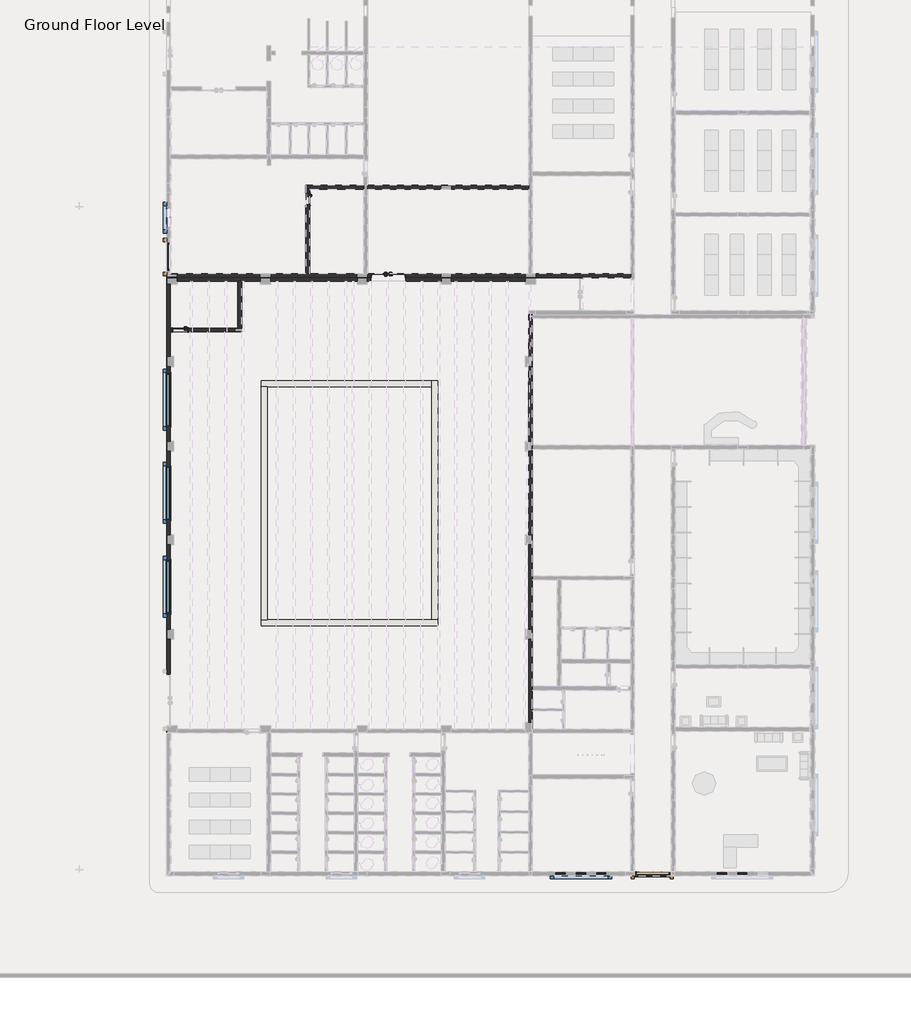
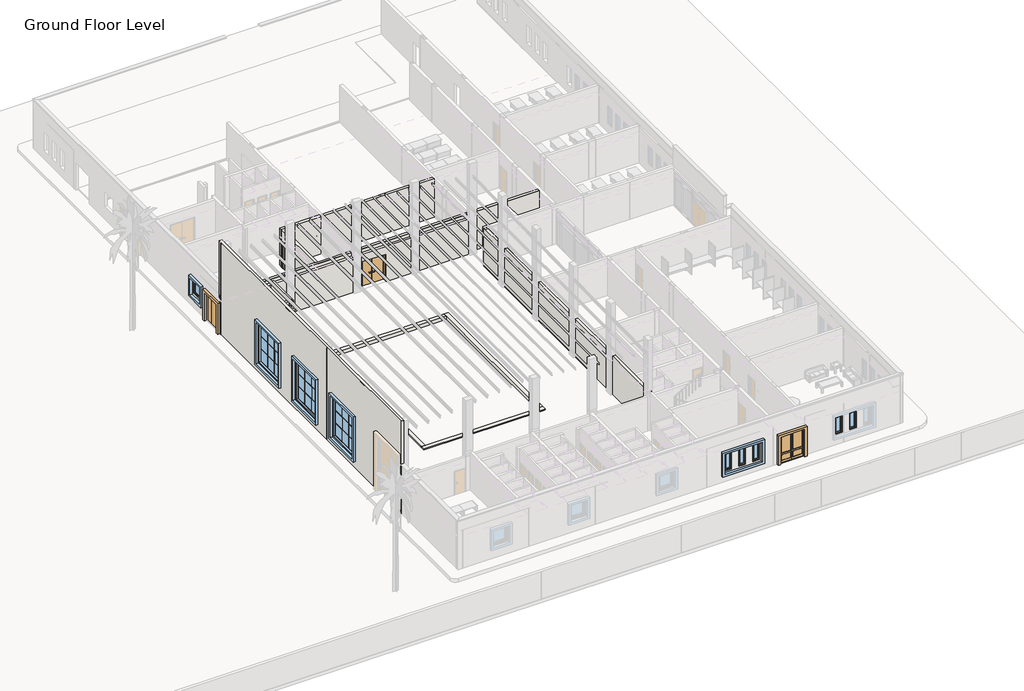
# One storey, part 3 of 23: 14 walls, 14 windows, 7 doors.
"""IFC4 building model written with IfcOpenShell, lengths in millimetres."""

from ifc_helpers import new_model, si_unit, frame, origin, place, context, project, spatial, polyline, outline, extrude, faceted_brep, transform, mapped, element, save
from components import door_1600_x_2500_8ab3e31f, door_batten_type_1_74683e9b, door_batten_type_1_96aa3be5, ext_double_out_timber_2lite_nz_2000x_2500_b5d1efe6, int_double_flush_nz_2000_x_2500_d3729d4c, int_single_flush_nz_700x_2100_3f4e598a, int_single_flush_nz_900_x_2100_2a598139, m_casement_3x3_with_trim_w4_ecc57509, window_batten_type_1_bbb21959, window_batten_type_1_b6324fda, window_batten_type_1_102509b6, window_single_shutter_w3_b236610e, window_single_shutter_w5_77842b58

model = new_model("IFC4")

# Units and contexts
model_context = context("Model", 3, world=origin())
ifc_project = project(units=[si_unit("LENGTHUNIT", "METRE", prefix="MILLI")], contexts=[model_context])

# Site, building, storey
site = spatial("IfcSite", under=ifc_project)
building = spatial("IfcBuilding", under=site)
storey = spatial("IfcBuildingStorey", under=building, Name="Ground Floor Level", Elevation=900.0)

# Doors
placement = place(None, origin())
door_1600_x_2500_shape = door_1600_x_2500_8ab3e31f(model_context)
element("IfcDoor", 1, ObjectType="Flush Asymmetrical : 1600 x 2500", at=placement, inside=storey, context=model_context, shape_type="MappedRepresentation", body=[
    mapped(door_1600_x_2500_shape, transform((-21947.2327605, -4944.7846466, 1000.0), x_axis=(0.0, 1.0, 0.0), y_axis=(-1.0, 0.0, 0.0), z_axis=(0.0, 0.0, 1.0))),
])
door_batten_type_1_shape = door_batten_type_1_74683e9b(model_context)
element("IfcDoor", 2, ObjectType="Door Batten : Type 1", at=placement, inside=storey, context=model_context, shape_type="MappedRepresentation", body=[
    mapped(door_batten_type_1_shape, transform((-21947.2327605, -4828.4134813, 987.2608957), x_axis=(0.0, -1.0, 0.0), y_axis=(1.0, 0.0, 0.0), z_axis=(0.0, 0.0, 1.0))),
])
door_batten_type_1_2_shape = door_batten_type_1_96aa3be5(model_context)
element("IfcDoor", 3, ObjectType="Door Batten : Type 1", at=placement, inside=storey, context=model_context, shape_type="MappedRepresentation", body=[
    mapped(door_batten_type_1_2_shape, transform((6395.8448912, -41254.7846466, 900.0), x_axis=(1.0, 0.0, 0.0), y_axis=(0.0, 1.0, 0.0), z_axis=(0.0, 0.0, 1.0))),
])
ext_double_out_timber_2lite_nz_2000x_2500_shape = ext_double_out_timber_2lite_nz_2000x_2500_b5d1efe6(model_context)
element("IfcDoor", 4, ObjectType="Ext Double Out-Timber-2Lite (NZ) : 2000x 2500", at=placement, inside=storey, context=model_context, shape_type="MappedRepresentation", body=[
    mapped(ext_double_out_timber_2lite_nz_2000x_2500_shape, transform((6410.7672394, -41257.5141639, 900.0), x_axis=(-1.0, 0.0, 0.0), y_axis=(0.0, -1.0, 0.0), z_axis=(0.0, 0.0, 1.0))),
])
int_double_flush_nz_2000_x_2500_shape = int_double_flush_nz_2000_x_2500_d3729d4c(model_context)
element("IfcDoor", 5, ObjectType="Int Double-Flush (NZ) : 2000 x 2500", at=placement, inside=storey, context=model_context, shape_type="MappedRepresentation", body=[
    mapped(int_double_flush_nz_2000_x_2500_shape, transform((-9018.2327605, -6054.7846466, 900.0), x_axis=(1.0, 0.0, 0.0), y_axis=(0.0, 1.0, 0.0), z_axis=(0.0, 0.0, 1.0))),
])
int_single_flush_nz_700x_2100_shape = int_single_flush_nz_700x_2100_3f4e598a(model_context)
element("IfcDoor", 6, ObjectType="Int Single-Flush (NZ) : 700x 2100", at=placement, inside=storey, context=model_context, shape_type="MappedRepresentation", body=[
    mapped(int_single_flush_nz_700x_2100_shape, transform((-13747.2327605, -1618.7846466, 1000.0), x_axis=(0.0, -1.0, 0.0), y_axis=(1.0, 0.0, 0.0), z_axis=(0.0, 0.0, 1.0))),
])
int_single_flush_nz_900_x_2100_shape = int_single_flush_nz_900_x_2100_2a598139(model_context)
element("IfcDoor", 7, ObjectType="Int Single-Flush (NZ) : 900 x 2100", at=placement, inside=storey, context=model_context, shape_type="MappedRepresentation", body=[
    mapped(int_single_flush_nz_900_x_2100_shape, transform((-21343.2327605, -9254.7846466, 1000.0), x_axis=(-1.0, 0.0, 0.0), y_axis=(0.0, -1.0, 0.0), z_axis=(0.0, 0.0, 1.0))),
])

# Walls
element("IfcWall", 8, ObjectType="Exterior - Blockwork 200 Swimming Pool", at=placement, inside=storey, context=model_context, shape_type="Brep", body=[
    faceted_brep([(-21837.2327605, -6164.7846466, 4100.0), (-947.2327605, -6164.7846466, 4100.0), (-947.2327605, -6164.7846466, 900.0), (-7999.2327605, -6164.7846466, 900.0), (-7999.2327605, -6164.7846466, 3419.0), (-10037.2327605, -6164.7846466, 3419.0), (-10037.2327605, -6164.7846466, 900.0), (-21837.2327605, -6164.7846466, 900.0), (-16547.2327605, -6384.7846466, 4100.0), (-21447.2327605, -6384.7846466, 4100.0), (-21447.2327605, -6384.7846466, 910.0), (-16547.2327605, -6384.7846466, 910.0), (-10847.2327605, -6384.7846466, 4100.0), (-15947.2327605, -6384.7846466, 4100.0), (-15947.2327605, -6384.7846466, 910.0), (-10847.2327605, -6384.7846466, 910.0), (-947.2327605, -6384.7846466, 4100.0), (-5297.2327605, -6384.7846466, 4100.0), (-5297.2327605, -6384.7846466, 910.0), (-947.2327605, -6384.7846466, 910.0), (-5897.2327605, -6384.7846466, 4100.0), (-10247.2327605, -6384.7846466, 4100.0), (-10247.2327605, -6384.7846466, 910.0), (-10037.2327605, -6384.7846466, 910.0), (-10037.2327605, -6384.7846466, 3419.0), (-7999.2327605, -6384.7846466, 3419.0), (-7999.2327605, -6384.7846466, 910.0), (-5897.2327605, -6384.7846466, 910.0), (-21837.2327605, -6174.7846466, 900.0), (-10037.2327605, -6374.7846466, 900.0), (-10247.2327605, -6374.7846466, 900.0), (-10247.2327605, -6174.7846466, 900.0), (-10847.2327605, -6174.7846466, 900.0), (-10847.2327605, -6374.7846466, 900.0), (-15947.2327605, -6374.7846466, 900.0), (-15947.2327605, -6174.7846466, 900.0), (-16547.2327605, -6174.7846466, 900.0), (-16547.2327605, -6374.7846466, 900.0), (-21447.2327605, -6374.7846466, 900.0), (-21447.2327605, -6174.7846466, 900.0), (-5297.2327605, -6174.7846466, 900.0), (-5897.2327605, -6174.7846466, 900.0), (-5897.2327605, -6374.7846466, 900.0), (-7999.2327605, -6374.7846466, 900.0), (-947.2327605, -6374.7846466, 900.0), (-5297.2327605, -6374.7846466, 900.0), (-21837.2327605, -6174.7846466, 4100.0), (-21447.2327605, -6174.7846466, 4100.0), (-16547.2327605, -6174.7846466, 4100.0), (-15947.2327605, -6174.7846466, 4100.0), (-10847.2327605, -6174.7846466, 4100.0), (-10247.2327605, -6174.7846466, 4100.0), (-5897.2327605, -6174.7846466, 4100.0), (-5297.2327605, -6174.7846466, 4100.0), (-947.2327605, -6374.7846466, 910.0), (-21447.2327605, -6374.7846466, 910.0), (-15947.2327605, -6374.7846466, 910.0), (-16547.2327605, -6374.7846466, 910.0), (-10247.2327605, -6374.7846466, 910.0), (-10847.2327605, -6374.7846466, 910.0), (-5297.2327605, -6374.7846466, 910.0), (-5897.2327605, -6374.7846466, 910.0), (-7999.2327605, -6374.7846466, 910.0), (-10037.2327605, -6374.7846466, 910.0)], [[[0, 1, 2, 3, 4, 5, 6, 7]], [[8, 9, 10, 11]], [[12, 13, 14, 15]], [[16, 17, 18, 19]], [[20, 21, 22, 23, 24, 25, 26, 27]], [[28, 7, 6, 29, 30, 31, 32, 33, 34, 35, 36, 37, 38, 39]], [[40, 41, 42, 43, 3, 2, 44, 45]], [[1, 0, 46, 47, 9, 8, 48, 49, 13, 12, 50, 51, 21, 20, 52, 53, 17, 16]], [[2, 1, 16, 19, 54, 44]], [[0, 7, 28, 46]], [[28, 39, 47, 46]], [[9, 47, 39, 38, 55, 10]], [[36, 35, 49, 48]], [[13, 49, 35, 34, 56, 14]], [[48, 8, 11, 57, 37, 36]], [[32, 31, 51, 50]], [[21, 51, 31, 30, 58, 22]], [[50, 12, 15, 59, 33, 32]], [[41, 40, 53, 52]], [[17, 53, 40, 45, 60, 18]], [[52, 20, 27, 61, 42, 41]], [[55, 57, 11, 10]], [[56, 59, 15, 14]], [[60, 54, 19, 18]], [[62, 61, 27, 26]], [[58, 63, 23, 22]], [[57, 55, 38, 37]], [[59, 56, 34, 33]], [[54, 60, 45, 44]], [[61, 62, 43, 42]], [[63, 58, 30, 29]], [[25, 4, 3, 43, 62, 26]], [[4, 25, 24, 5]], [[5, 24, 23, 63, 29, 6]]]),
])
element("IfcWall", 9, ObjectType="Exterior - Blockwork 200 Swimming Pool", at=placement, inside=storey, context=model_context, shape_type="Brep", body=[
    faceted_brep([(-757.2327605, -32354.7846466, 4400.0), (-757.2327605, -27454.7846466, 4400.0), (-757.2327605, -27454.7846466, 910.0), (-757.2327605, -32354.7846466, 910.0), (-757.2327605, -26854.7846466, 4400.0), (-757.2327605, -21904.7846466, 4400.0), (-757.2327605, -21904.7846466, 910.0), (-757.2327605, -26854.7846466, 910.0), (-757.2327605, -21304.7846466, 4400.0), (-757.2327605, -16404.7846466, 4400.0), (-757.2327605, -16404.7846466, 910.0), (-757.2327605, -21304.7846466, 910.0), (-757.2327605, -15804.7846466, 4400.0), (-757.2327605, -11404.7846466, 4400.0), (-757.2327605, -11404.7846466, 910.0), (-757.2327605, -15804.7846466, 910.0), (-757.2327605, -10804.7846466, 4400.0), (-757.2327605, -8344.7846466, 4400.0), (-757.2327605, -8344.7846466, 910.0), (-757.2327605, -10804.7846466, 910.0), (-537.2327605, -8344.7846466, 900.0), (-537.2327605, -8344.7846466, 4400.0), (-537.2327605, -8354.7846466, 4400.0), (-537.2327605, -8354.7846466, 900.0), (-537.2327605, -23754.7846466, 1000.0), (-537.2327605, -23744.7846466, 1000.0), (-537.2327605, -16264.7846466, 1000.0), (-537.2327605, -16254.7846466, 1000.0), (-537.2327605, -16254.7846466, 900.0), (-537.2327605, -16054.7846466, 900.0), (-537.2327605, -16054.7846466, 1000.0), (-537.2327605, -16044.7846466, 1000.0), (-537.2327605, -8564.7846466, 1000.0), (-537.2327605, -8554.7846466, 1000.0), (-537.2327605, -8554.7846466, 4400.0), (-537.2327605, -8564.7846466, 4400.0), (-537.2327605, -16044.7846466, 4400.0), (-537.2327605, -16264.7846466, 4400.0), (-537.2327605, -23744.7846466, 4400.0), (-537.2327605, -23964.7846466, 4400.0), (-537.2327605, -30234.7846466, 4400.0), (-537.2327605, -30454.7846466, 4400.0), (-537.2327605, -31544.7846466, 4400.0), (-537.2327605, -31664.7846466, 4400.0), (-537.2327605, -32754.7846466, 4400.0), (-537.2327605, -32854.7846466, 4400.0), (-537.2327605, -32854.7846466, 4100.0), (-537.2327605, -32744.7846466, 4100.0), (-537.2327605, -32744.7846466, 1000.0), (-537.2327605, -30444.7846466, 1000.0), (-537.2327605, -30444.7846466, 900.0), (-537.2327605, -30234.7846466, 900.0), (-537.2327605, -23964.7846466, 900.0), (-537.2327605, -23754.7846466, 900.0), (-547.2327605, -27454.7846466, 900.0), (-547.2327605, -26854.7846466, 900.0), (-747.2327605, -26854.7846466, 900.0), (-747.2327605, -21904.7846466, 900.0), (-547.2327605, -21904.7846466, 900.0), (-547.2327605, -23754.7846466, 900.0), (-547.2327605, -30444.7846466, 900.0), (-547.2327605, -32354.7846466, 900.0), (-747.2327605, -32354.7846466, 900.0), (-747.2327605, -27454.7846466, 900.0), (-747.2327605, -8354.7846466, 900.0), (-747.2327605, -8344.7846466, 900.0), (-547.2327605, -16404.7846466, 900.0), (-547.2327605, -21304.7846466, 900.0), (-747.2327605, -21304.7846466, 900.0), (-747.2327605, -16404.7846466, 900.0), (-547.2327605, -16254.7846466, 900.0), (-547.2327605, -16054.7846466, 900.0), (-747.2327605, -8554.7846466, 900.0), (-547.2327605, -8554.7846466, 900.0), (-547.2327605, -10804.7846466, 900.0), (-747.2327605, -10804.7846466, 900.0), (-547.2327605, -11404.7846466, 900.0), (-547.2327605, -15804.7846466, 900.0), (-747.2327605, -15804.7846466, 900.0), (-747.2327605, -11404.7846466, 900.0), (-547.2327605, -32354.7846466, 1000.0), (-547.2327605, -32744.7846466, 1000.0), (-547.2327605, -32744.7846466, 4100.0), (-547.2327605, -32854.7846466, 4100.0), (-547.2327605, -32854.7846466, 4400.0), (-547.2327605, -32754.7846466, 4400.0), (-547.2327605, -32354.7846466, 4400.0), (-747.2327605, -32354.7846466, 910.0), (-547.2327605, -27454.7846466, 4400.0), (-547.2327605, -26854.7846466, 4400.0), (-747.2327605, -27454.7846466, 910.0), (-747.2327605, -26854.7846466, 910.0), (-547.2327605, -21304.7846466, 1000.0), (-547.2327605, -21904.7846466, 1000.0), (-547.2327605, -21904.7846466, 4400.0), (-547.2327605, -21304.7846466, 4400.0), (-747.2327605, -21904.7846466, 910.0), (-747.2327605, -21304.7846466, 910.0), (-547.2327605, -16254.7846466, 1000.0), (-547.2327605, -16404.7846466, 1000.0), (-547.2327605, -16404.7846466, 4400.0), (-547.2327605, -15804.7846466, 4400.0), (-547.2327605, -15804.7846466, 1000.0), (-547.2327605, -16054.7846466, 1000.0), (-747.2327605, -16404.7846466, 910.0), (-747.2327605, -15804.7846466, 910.0), (-547.2327605, -10804.7846466, 1000.0), (-547.2327605, -11404.7846466, 1000.0), (-547.2327605, -11404.7846466, 4400.0), (-547.2327605, -10804.7846466, 4400.0), (-747.2327605, -11404.7846466, 910.0), (-747.2327605, -10804.7846466, 910.0), (-747.2327605, -8554.7846466, 910.0), (-747.2327605, -8554.7846466, 4400.0), (-547.2327605, -8554.7846466, 4400.0), (-547.2327605, -8554.7846466, 1000.0), (-747.2327605, -8354.7846466, 4400.0), (-747.2327605, -8354.7846466, 910.0), (-747.2327605, -8344.7846466, 910.0), (-547.2327605, -8344.7846466, 4400.0), (-547.2327605, -8354.7846466, 4400.0), (-547.2327605, -23754.7846466, 1000.0), (-547.2327605, -30444.7846466, 1000.0)], [[[0, 1, 2, 3]], [[4, 5, 6, 7]], [[8, 9, 10, 11]], [[12, 13, 14, 15]], [[16, 17, 18, 19]], [[20, 21, 22, 23]], [[24, 25, 26, 27, 28, 29, 30, 31, 32, 33, 34, 35, 36, 37, 38, 39, 40, 41, 42, 43, 44, 45, 46, 47, 48, 49, 50, 51, 52, 53]], [[54, 55, 56, 57, 58, 59, 53, 52, 51, 50, 60, 61, 62, 63]], [[20, 23, 64, 65]], [[66, 67, 68, 69]], [[28, 70, 71, 29]], [[72, 73, 74, 75]], [[76, 77, 78, 79]], [[80, 81, 82, 83, 84, 85, 86]], [[61, 80, 86, 0, 3, 87, 62]], [[55, 54, 88, 89]], [[88, 54, 63, 90, 2, 1]], [[55, 89, 4, 7, 91, 56]], [[92, 93, 94, 95]], [[93, 58, 57, 96, 6, 5, 94]], [[67, 92, 95, 8, 11, 97, 68]], [[98, 99, 100, 101, 102, 103, 71, 70]], [[99, 66, 69, 104, 10, 9, 100]], [[77, 102, 101, 12, 15, 105, 78]], [[106, 107, 108, 109]], [[107, 76, 79, 110, 14, 13, 108]], [[74, 106, 109, 16, 19, 111, 75]], [[73, 72, 112, 113, 114, 34, 33, 115]], [[116, 113, 112, 117]], [[21, 20, 65, 118, 18, 17, 119]], [[23, 22, 120, 116, 117, 64]], [[121, 93, 92, 99, 98, 27, 26, 25, 24]], [[59, 121, 24, 53]], [[121, 59, 58, 93]], [[99, 92, 67, 66]], [[27, 98, 70, 28]], [[102, 107, 106, 115, 33, 32, 31, 30, 103]], [[103, 30, 29, 71]], [[107, 102, 77, 76]], [[115, 106, 74, 73]], [[80, 122, 49, 48, 81]], [[60, 122, 80, 61]], [[122, 60, 50, 49]], [[90, 87, 3, 2]], [[96, 91, 7, 6]], [[104, 97, 11, 10]], [[110, 105, 15, 14]], [[112, 111, 19, 18, 118, 117]], [[87, 90, 63, 62]], [[91, 96, 57, 56]], [[97, 104, 69, 68]], [[105, 110, 79, 78]], [[111, 112, 72, 75]], [[117, 118, 65, 64]], [[46, 45, 84, 83]], [[47, 46, 83, 82]], [[47, 82, 81, 48]], [[119, 17, 16, 109, 114, 113, 116, 120]], [[0, 86, 88, 1]], [[4, 89, 94, 5]], [[8, 95, 100, 9]], [[12, 101, 108, 13]], [[45, 44, 43, 42, 41, 40, 39, 38, 37, 36, 35, 34, 114, 109, 108, 101, 100, 95, 94, 89, 88, 86, 85, 84]], [[21, 119, 120, 22]]]),
])
element("IfcWall", 10, ObjectType="Exterior - Blockwork 200mm", at=placement, inside=storey, context=model_context, shape_type="Brep", body=[
    faceted_brep([(-21837.2327605, -5944.7846466, 9300.0), (-21837.2327605, -6164.7846466, 9300.0), (-21837.2327605, -32744.7846466, 9300.0), (-21837.2327605, -32964.7846466, 9300.0), (-21837.2327605, -32964.7846466, 5302.8002678), (-21837.2327605, -32964.7846466, 4550.0), (-21837.2327605, -32964.7846466, 4400.0), (-21837.2327605, -32954.7846466, 4400.0), (-21837.2327605, -32954.7846466, 9200.0), (-21837.2327605, -32744.7846466, 9200.0), (-21837.2327605, -32554.7846466, 9200.0), (-21837.2327605, -32554.7846466, 5919.0), (-21837.2327605, -29535.7846466, 5919.0), (-21837.2327605, -29535.7846466, 910.0), (-21837.2327605, -27454.7846468, 910.0), (-21837.2327605, -27454.7846468, 9200.0), (-21837.2327605, -26854.7846468, 9200.0), (-21837.2327605, -26854.7846468, 910.0), (-21837.2327605, -21904.7846466, 910.0), (-21837.2327605, -21904.7846466, 9200.0), (-21837.2327605, -21304.7846466, 9200.0), (-21837.2327605, -21304.7846466, 910.0), (-21837.2327605, -16404.7846466, 910.0), (-21837.2327605, -16404.7846466, 9200.0), (-21837.2327605, -15804.7846466, 9200.0), (-21837.2327605, -15804.7846466, 910.0), (-21837.2327605, -11404.7846466, 910.0), (-21837.2327605, -11404.7846466, 9200.0), (-21837.2327605, -10804.7846466, 9200.0), (-21837.2327605, -10804.7846466, 910.0), (-21837.2327605, -6574.7846466, 910.0), (-21837.2327605, -6574.7846466, 4270.0), (-21837.2327605, -9354.7846466, 4270.0), (-21837.2327605, -9354.7846466, 4400.0), (-21837.2327605, -6574.7846466, 4400.0), (-21837.2327605, -6574.7846466, 9200.0), (-21837.2327605, -6174.7846466, 9200.0), (-21837.2327605, -6174.7846466, 4400.0), (-21837.2327605, -6174.7846466, 4270.0), (-21837.2327605, -6174.7846466, 4100.0), (-21837.2327605, -6174.7846466, 900.0), (-21837.2327605, -6164.7846466, 900.0), (-21837.2327605, -6154.7846466, 900.0), (-21837.2327605, -6154.7846466, 4100.0), (-21837.2327605, -6154.7846466, 4400.0), (-21837.2327605, -5954.7846466, 4400.0), (-21837.2327605, -5954.7846466, 4100.0), (-21837.2327605, -5944.7846466, 4100.0), (-21837.2327605, -5944.7846466, 4400.0), (-21837.2327605, -5944.7846466, 4550.0), (-21837.2327605, -5944.7846466, 5302.8002678), (-21837.2327605, -25932.2846466, 1800.0), (-21837.2327605, -25932.2846466, 5300.0), (-21837.2327605, -22832.2846466, 5300.0), (-21837.2327605, -22832.2846466, 1800.0), (-21837.2327605, -20412.2846466, 1815.0), (-21837.2327605, -20412.2846466, 5315.0), (-21837.2327605, -17312.2846466, 5315.0), (-21837.2327605, -17312.2846466, 1815.0), (-21837.2327605, -14912.2846466, 1815.0), (-21837.2327605, -14912.2846466, 5315.0), (-21837.2327605, -11812.2846466, 5315.0), (-21837.2327605, -11812.2846466, 1815.0), (-21837.2327605, -32954.7846466, 900.0), (-21837.2327605, -32954.7846466, 1000.0), (-21837.2327605, -32954.7846466, 4100.0), (-21837.2327605, -32964.7846466, 4100.0), (-21837.2327605, -32964.7846466, 1000.0), (-21837.2327605, -32964.7846466, 900.0), (-22057.2327605, -32964.7846466, 9300.0), (-22057.2327605, -5944.7846466, 9300.0), (-22057.2327605, -5944.7846466, 5302.8002678), (-22057.2327605, -5944.7846466, 4100.0), (-22057.2327605, -6054.7846466, 4100.0), (-22057.2327605, -6054.7846466, 900.0), (-22057.2327605, -29535.7846466, 900.0), (-22057.2327605, -29535.7846466, 5919.0), (-22057.2327605, -32573.7846466, 5919.0), (-22057.2327605, -32573.7846466, 900.0), (-22057.2327605, -32964.7846466, 900.0), (-22057.2327605, -32964.7846466, 4100.0), (-22057.2327605, -32854.7846466, 4100.0), (-22057.2327605, -32854.7846466, 4400.0), (-22057.2327605, -32964.7846466, 4400.0), (-22057.2327605, -32964.7846466, 5302.8002678), (-22057.2327605, -25932.2846466, 5300.0), (-22057.2327605, -25932.2846466, 1800.0), (-22057.2327605, -22832.2846466, 1800.0), (-22057.2327605, -22832.2846466, 5300.0), (-22057.2327605, -20412.2846466, 5315.0), (-22057.2327605, -20412.2846466, 1815.0), (-22057.2327605, -17312.2846466, 1815.0), (-22057.2327605, -17312.2846466, 5315.0), (-22057.2327605, -14912.2846466, 5315.0), (-22057.2327605, -14912.2846466, 1815.0), (-22057.2327605, -11812.2846466, 1815.0), (-22057.2327605, -11812.2846466, 5315.0), (-22047.2327605, -10804.7846466, 900.0), (-22047.2327605, -11404.7846466, 900.0), (-21847.2327605, -11404.7846466, 900.0), (-21847.2327605, -15804.7846466, 900.0), (-22047.2327605, -15804.7846466, 900.0), (-22047.2327605, -16404.7846466, 900.0), (-21847.2327605, -16404.7846466, 900.0), (-21847.2327605, -21304.7846466, 900.0), (-22047.2327605, -21304.7846466, 900.0), (-22047.2327605, -21904.7846466, 900.0), (-21847.2327605, -21904.7846466, 900.0), (-21847.2327605, -26854.7846468, 900.0), (-22047.2327605, -26854.7846468, 900.0), (-22047.2327605, -27454.7846468, 900.0), (-21847.2327605, -27454.7846468, 900.0), (-21847.2327605, -29535.7846466, 900.0), (-22047.2327605, -6054.7846466, 900.0), (-22047.2327605, -6154.7846466, 900.0), (-22047.2327605, -6174.7846466, 900.0), (-22047.2327605, -6574.7846466, 900.0), (-21847.2327605, -6574.7846466, 900.0), (-21847.2327605, -10804.7846466, 900.0), (-22047.2327605, -32573.7846466, 900.0), (-22047.2327605, -32954.7846466, 900.0), (-21847.2327605, -32964.7846466, 900.0), (-22047.2327605, -11404.7846466, 9200.0), (-21847.2327605, -11404.7846466, 910.0), (-22047.2327605, -10804.7846466, 9200.0), (-21847.2327605, -10804.7846466, 910.0), (-22047.2327605, -15804.7846466, 9200.0), (-22047.2327605, -16404.7846466, 9200.0), (-21847.2327605, -15804.7846466, 910.0), (-21847.2327605, -16404.7846466, 910.0), (-22047.2327605, -21304.7846466, 9200.0), (-22047.2327605, -21904.7846466, 9200.0), (-21847.2327605, -21304.7846466, 910.0), (-21847.2327605, -21904.7846466, 910.0), (-22047.2327605, -26854.7846468, 9200.0), (-22047.2327605, -27454.7846468, 9200.0), (-21847.2327605, -26854.7846468, 910.0), (-21847.2327605, -27454.7846468, 910.0), (-22047.2327605, -32554.7846466, 9200.0), (-22047.2327605, -32554.7846466, 5919.0), (-22047.2327605, -32954.7846466, 9200.0), (-22047.2327605, -32954.7846466, 4550.0), (-22047.2327605, -32954.7846466, 4400.0), (-22047.2327605, -32854.7846466, 4400.0), (-22047.2327605, -32854.7846466, 4100.0), (-22047.2327605, -32954.7846466, 4100.0), (-22047.2327605, -32573.7846466, 5919.0), (-22047.2327605, -6574.7846466, 9200.0), (-21847.2327605, -6574.7846466, 4400.0), (-21847.2327605, -6574.7846466, 4270.0), (-21847.2327605, -6574.7846466, 910.0), (-22047.2327605, -6174.7846466, 9200.0), (-22047.2327605, -32964.7846466, 4400.0), (-22047.2327605, -6154.7846466, 4400.0), (-22047.2327605, -5954.7846466, 4400.0), (-22047.2327605, -6054.7846466, 4100.0), (-22047.2327605, -5954.7846466, 4100.0), (-21847.2327605, -29535.7846466, 910.0), (-21847.2327605, -9354.7846466, 4270.0), (-21847.2327605, -9354.7846466, 4400.0)], [[[0, 1, 2, 3, 4, 5, 6, 7, 8, 9, 10, 11, 12, 13, 14, 15, 16, 17, 18, 19, 20, 21, 22, 23, 24, 25, 26, 27, 28, 29, 30, 31, 32, 33, 34, 35, 36, 37, 38, 39, 40, 41, 42, 43, 44, 45, 46, 47, 48, 49, 50], [51, 52, 53, 54], [55, 56, 57, 58], [59, 60, 61, 62]], [[63, 64, 65, 66, 67, 68]], [[69, 70, 71, 72, 73, 74, 75, 76, 77, 78, 79, 80, 81, 82, 83, 84], [85, 86, 87, 88], [89, 90, 91, 92], [93, 94, 95, 96]], [[97, 98, 99, 100, 101, 102, 103, 104, 105, 106, 107, 108, 109, 110, 111, 112, 75, 74, 113, 114, 42, 41, 40, 115, 116, 117, 118]], [[119, 120, 63, 68, 121, 79, 78]], [[3, 2, 1, 0, 70, 69]], [[51, 86, 85, 52]], [[86, 51, 54, 87]], [[87, 54, 53, 88]], [[55, 90, 89, 56]], [[90, 55, 58, 91]], [[91, 58, 57, 92]], [[59, 94, 93, 60]], [[94, 59, 62, 95]], [[95, 62, 61, 96]], [[122, 27, 26, 123, 99, 98]], [[124, 122, 98, 97]], [[28, 124, 97, 118, 125, 29]], [[122, 124, 28, 27]], [[126, 127, 102, 101]], [[24, 126, 101, 100, 128, 25]], [[127, 23, 22, 129, 103, 102]], [[127, 126, 24, 23]], [[130, 131, 106, 105]], [[20, 130, 105, 104, 132, 21]], [[131, 19, 18, 133, 107, 106]], [[131, 130, 20, 19]], [[134, 135, 110, 109]], [[16, 134, 109, 108, 136, 17]], [[135, 15, 14, 137, 111, 110]], [[135, 134, 16, 15]], [[10, 138, 139, 11]], [[138, 140, 141, 142, 143, 144, 145, 120, 119, 146, 139]], [[140, 138, 10, 9, 8]], [[147, 35, 34, 148, 149, 31, 30, 150, 117, 116]], [[151, 147, 116, 115]], [[147, 151, 36, 35]], [[52, 85, 88, 53]], [[56, 89, 92, 57]], [[60, 93, 96, 61]], [[36, 151, 115, 40, 39, 38, 37]], [[65, 64, 63, 120, 145]], [[140, 8, 7, 142, 141]], [[81, 80, 66, 65, 145, 144]], [[82, 81, 144, 143]], [[83, 82, 143, 142, 7, 6, 152]], [[79, 121, 68, 67, 66, 80]], [[114, 153, 44, 43, 42]], [[154, 153, 114, 113, 155, 156]], [[153, 154, 45, 44]], [[74, 73, 155, 113]], [[73, 72, 47, 46, 156, 155]], [[45, 154, 156, 46]], [[3, 69, 84, 83, 152, 6, 5, 4]], [[70, 0, 50, 71]], [[128, 123, 26, 25]], [[132, 129, 22, 21]], [[136, 133, 18, 17]], [[157, 137, 14, 13]], [[125, 150, 30, 29]], [[123, 128, 100, 99]], [[129, 132, 104, 103]], [[133, 136, 108, 107]], [[137, 157, 112, 111]], [[150, 125, 118, 117]], [[78, 77, 146, 119]], [[76, 12, 11, 139, 146, 77]], [[12, 76, 75, 112, 157, 13]], [[149, 158, 32, 31]], [[33, 159, 148, 34]], [[158, 159, 33, 32]], [[159, 158, 149, 148]], [[47, 72, 71, 50, 49, 48]]]),
])
element("IfcWall", 11, ObjectType="Generic - 200mm Interior", at=placement, inside=storey, context=model_context, shape_type="Brep", body=[
    faceted_brep([(-13867.2327605, -734.7846466, 4400.0), (-10457.2327605, -734.7846466, 4400.0), (-10457.2327605, -734.7846466, 1000.0), (-13867.2327605, -734.7846466, 1000.0), (-10457.2327605, -974.7846466, 4400.0), (-13627.2327605, -974.7846466, 4400.0), (-13867.2327605, -974.7846466, 4400.0), (-13867.2327605, -974.7846466, 1000.0), (-13847.2327605, -974.7846466, 1000.0), (-13847.2327605, -974.7846466, 900.0), (-13647.2327605, -974.7846466, 900.0), (-13647.2327605, -974.7846466, 1000.0), (-13627.2327605, -974.7846466, 1000.0), (-10457.2327605, -974.7846466, 1000.0), (-13847.2327605, -754.7846466, 900.0), (-10457.2327605, -754.7846466, 900.0), (-10457.2327605, -954.7846466, 900.0), (-13647.2327605, -954.7846466, 900.0), (-10457.2327605, -954.7846466, 1000.0), (-10457.2327605, -754.7846466, 1000.0), (-13847.2327605, -754.7846466, 1000.0), (-13647.2327605, -954.7846466, 1000.0)], [[[0, 1, 2, 3]], [[4, 5, 6, 7, 8, 9, 10, 11, 12, 13]], [[14, 15, 16, 17, 10, 9]], [[1, 4, 13, 18, 16, 15, 19, 2]], [[6, 0, 3, 7]], [[1, 0, 6, 5, 4]], [[19, 20, 8, 7, 3, 2]], [[14, 20, 19, 15]], [[20, 14, 9, 8]], [[21, 18, 13, 12, 11]], [[21, 17, 16, 18]], [[17, 21, 11, 10]]]),
])
element("IfcWall", 12, ObjectType="Generic - 200mm Interior", at=placement, inside=storey, context=model_context, shape_type="Brep", body=[
    faceted_brep([(-13867.2327605, -5944.7846466, 4400.0), (-13867.2327605, -974.7846466, 4400.0), (-13867.2327605, -974.7846466, 1000.0), (-13867.2327605, -1174.7846466, 1000.0), (-13867.2327605, -1174.7846466, 3119.0), (-13867.2327605, -1912.7846466, 3119.0), (-13867.2327605, -1912.7846466, 1000.0), (-13867.2327605, -5944.7846466, 1000.0), (-13627.2327605, -974.7846466, 4400.0), (-13627.2327605, -5944.7846466, 4400.0), (-13627.2327605, -5944.7846466, 1000.0), (-13627.2327605, -1912.7846466, 1000.0), (-13627.2327605, -1912.7846466, 3119.0), (-13627.2327605, -1174.7846466, 3119.0), (-13627.2327605, -1174.7846466, 1000.0), (-13627.2327605, -974.7846466, 1000.0), (-13847.2327605, -5944.7846466, 900.0), (-13847.2327605, -974.7846466, 900.0), (-13647.2327605, -974.7846466, 900.0), (-13647.2327605, -5944.7846466, 900.0), (-13647.2327605, -974.7846466, 1000.0), (-13847.2327605, -974.7846466, 1000.0), (-13847.2327605, -1174.7846466, 1000.0), (-13847.2327605, -1912.7846466, 1000.0), (-13847.2327605, -5944.7846466, 1000.0), (-13647.2327605, -5944.7846466, 1000.0), (-13647.2327605, -1912.7846466, 1000.0), (-13647.2327605, -1174.7846466, 1000.0)], [[[0, 1, 2, 3, 4, 5, 6, 7]], [[8, 9, 10, 11, 12, 13, 14, 15]], [[16, 17, 18, 19]], [[1, 8, 15, 20, 18, 17, 21, 2]], [[1, 0, 9, 8]], [[2, 21, 22, 3]], [[23, 24, 7, 6]], [[24, 23, 22, 21, 17, 16]], [[25, 26, 11, 10]], [[27, 20, 15, 14]], [[20, 27, 26, 25, 19, 18]], [[5, 12, 11, 26, 23, 6]], [[12, 5, 4, 13]], [[13, 4, 3, 22, 27, 14]], [[22, 23, 26, 27]], [[9, 0, 7, 24, 16, 19, 25, 10]]]),
])
element("IfcWall", 13, ObjectType="Interior - Blockwork 200", at=placement, inside=storey, context=model_context, shape_type="Brep", body=[
    faceted_brep([(-10237.2327605, -744.7846466, 4400.0), (-757.2327605, -744.7846466, 4400.0), (-757.2327605, -744.7846466, 1000.0), (-10237.2327605, -744.7846466, 1000.0), (-757.2327605, -964.7846466, 4400.0), (-10237.2327605, -964.7846466, 4400.0), (-10237.2327605, -964.7846466, 910.0), (-757.2327605, -964.7846466, 910.0), (-5897.2327605, -754.7846466, 900.0), (-5897.2327605, -954.7846466, 900.0), (-10237.2327605, -954.7846466, 900.0), (-10237.2327605, -754.7846466, 900.0), (-5297.2327605, -954.7846466, 900.0), (-5297.2327605, -754.7846466, 900.0), (-757.2327605, -754.7846466, 900.0), (-757.2327605, -954.7846466, 900.0), (-10237.2327605, -754.7846466, 1000.0), (-10237.2327605, -954.7846466, 910.0), (-757.2327605, -954.7846466, 910.0), (-757.2327605, -754.7846466, 1000.0), (-5897.2327605, -954.7846466, 4400.0), (-5297.2327605, -954.7846466, 4400.0), (-5297.2327605, -954.7846466, 910.0), (-5897.2327605, -954.7846466, 910.0), (-5897.2327605, -754.7846466, 1000.0), (-5897.2327605, -754.7846466, 4400.0), (-5297.2327605, -754.7846466, 4400.0), (-5297.2327605, -754.7846466, 1000.0)], [[[0, 1, 2, 3]], [[4, 5, 6, 7]], [[8, 9, 10, 11]], [[12, 13, 14, 15]], [[5, 0, 3, 16, 11, 10, 17, 6]], [[1, 4, 7, 18, 15, 14, 19, 2]], [[20, 21, 22, 23]], [[9, 8, 24, 25, 20, 23]], [[26, 25, 24, 27]], [[13, 12, 22, 21, 26, 27]], [[1, 0, 5, 4], [21, 20, 25, 26]], [[24, 16, 3, 2, 19, 27]], [[16, 24, 8, 11]], [[27, 19, 14, 13]], [[17, 23, 22, 18, 7, 6]], [[23, 17, 10, 9]], [[18, 22, 12, 15]]]),
])
element("IfcWall", 14, ObjectType="Interior - Blockwork 200", at=placement, inside=storey, context=model_context, shape_type="Brep", body=[
    faceted_brep([(5242.7672395, -6164.7846466, 4400.0), (-21837.2327605, -6164.7846466, 4400.0), (-21837.2327605, -6164.7846466, 4100.0), (-21837.2327605, -6164.7846466, 900.0), (-10037.2327605, -6164.7846466, 900.0), (-10037.2327605, -6164.7846466, 3419.0), (-7999.2327605, -6164.7846466, 3419.0), (-7999.2327605, -6164.7846466, 900.0), (-947.2327605, -6164.7846466, 900.0), (-347.2327605, -6164.7846466, 900.0), (-347.2327605, -6164.7846466, 910.0), (5242.7672395, -6164.7846466, 910.0), (-21837.2327605, -5944.7846466, 4400.0), (-13867.2327605, -5944.7846466, 4400.0), (-13627.2327605, -5944.7846466, 4400.0), (-10457.2327605, -5944.7846466, 4400.0), (-10237.2327605, -5944.7846466, 4400.0), (-757.2327605, -5944.7846466, 4400.0), (-537.2327605, -5944.7846466, 4400.0), (5242.7672395, -5944.7846466, 4400.0), (5242.7672395, -5944.7846466, 1000.0), (-537.2327605, -5944.7846466, 1000.0), (-547.2327605, -5944.7846466, 1000.0), (-547.2327605, -5944.7846466, 900.0), (-747.2327605, -5944.7846466, 900.0), (-747.2327605, -5944.7846466, 910.0), (-757.2327605, -5944.7846466, 910.0), (-7999.2327605, -5944.7846466, 910.0), (-7999.2327605, -5944.7846466, 3419.0), (-10037.2327605, -5944.7846466, 3419.0), (-10037.2327605, -5944.7846466, 910.0), (-10237.2327605, -5944.7846466, 910.0), (-10247.2327605, -5944.7846466, 910.0), (-10247.2327605, -5944.7846466, 900.0), (-10447.2327605, -5944.7846466, 900.0), (-10447.2327605, -5944.7846466, 1000.0), (-10457.2327605, -5944.7846466, 1000.0), (-13647.2327605, -5944.7846466, 1000.0), (-13647.2327605, -5944.7846466, 900.0), (-13847.2327605, -5944.7846466, 900.0), (-13847.2327605, -5944.7846466, 1000.0), (-21837.2327605, -5944.7846466, 1000.0), (-21837.2327605, -5944.7846466, 4100.0), (-927.2327605, -5954.7846466, 900.0), (-927.2327605, -6154.7846466, 900.0), (-347.2327605, -6154.7846466, 900.0), (-7999.2327605, -5954.7846466, 900.0), (-5897.2327605, -5954.7846466, 900.0), (-5897.2327605, -6154.7846466, 900.0), (-5297.2327605, -6154.7846466, 900.0), (-5297.2327605, -5954.7846466, 900.0), (-327.2327605, -6154.7846466, 900.0), (-327.2327605, -5954.7846466, 900.0), (5242.7672395, -5954.7846466, 900.0), (5242.7672395, -6154.7846466, 900.0), (-10847.2327605, -5954.7846466, 900.0), (-10847.2327605, -6154.7846466, 900.0), (-10247.2327605, -6154.7846466, 900.0), (-10247.2327605, -5954.7846466, 900.0), (-10037.2327605, -5954.7846466, 900.0), (-21837.2327605, -6154.7846466, 900.0), (-21447.2327605, -6154.7846466, 900.0), (-21447.2327605, -5954.7846466, 900.0), (-16547.2327605, -5954.7846466, 900.0), (-16547.2327605, -6154.7846466, 900.0), (-15947.2327605, -6154.7846466, 900.0), (-15947.2327605, -5954.7846466, 900.0), (-13847.2327605, -5954.7846466, 900.0), (-13647.2327605, -5954.7846466, 900.0), (-547.2327605, -5954.7846466, 900.0), (-747.2327605, -5954.7846466, 900.0), (-10447.2327605, -5954.7846466, 900.0), (5242.7672395, -6154.7846466, 4400.0), (5242.7672395, -6154.7846466, 910.0), (5242.7672395, -5954.7846466, 1000.0), (-927.2327605, -5954.7846466, 910.0), (-927.2327605, -5954.7846466, 4400.0), (-927.2327605, -6154.7846466, 4400.0), (-327.2327605, -5954.7846466, 4400.0), (-747.2327605, -5954.7846466, 910.0), (-547.2327605, -5954.7846466, 1000.0), (-327.2327605, -5954.7846466, 1000.0), (-327.2327605, -6154.7846466, 910.0), (-327.2327605, -6154.7846466, 4400.0), (-5897.2327605, -5954.7846466, 910.0), (-5897.2327605, -5954.7846466, 4400.0), (-5897.2327605, -6154.7846466, 4400.0), (-5297.2327605, -5954.7846466, 4400.0), (-5297.2327605, -5954.7846466, 910.0), (-5297.2327605, -6154.7846466, 4400.0), (-10847.2327605, -5954.7846466, 1000.0), (-10847.2327605, -5954.7846466, 4400.0), (-10847.2327605, -6154.7846466, 4400.0), (-10247.2327605, -5954.7846466, 4400.0), (-10447.2327605, -5954.7846466, 1000.0), (-10247.2327605, -5954.7846466, 910.0), (-10247.2327605, -6154.7846466, 4400.0), (-16547.2327605, -5954.7846466, 1000.0), (-16547.2327605, -5954.7846466, 4400.0), (-16547.2327605, -6154.7846466, 4400.0), (-15947.2327605, -5954.7846466, 4400.0), (-15947.2327605, -5954.7846466, 1000.0), (-15947.2327605, -6154.7846466, 4400.0), (-21447.2327605, -5954.7846466, 4400.0), (-21837.2327605, -5954.7846466, 4400.0), (-21837.2327605, -5954.7846466, 4100.0), (-21837.2327605, -5954.7846466, 1000.0), (-21447.2327605, -5954.7846466, 1000.0), (-21447.2327605, -6154.7846466, 4400.0), (-547.2327605, -6154.7846466, 4400.0), (-21837.2327605, -6154.7846466, 4400.0), (-347.2327605, -6154.7846466, 910.0), (-13847.2327605, -5954.7846466, 1000.0), (-13647.2327605, -5954.7846466, 1000.0), (-7999.2327605, -5954.7846466, 910.0), (-10247.2327605, -5954.7846466, 910.0), (-10037.2327605, -5954.7846466, 910.0)], [[[0, 1, 2, 3, 4, 5, 6, 7, 8, 9, 10, 11]], [[12, 13, 14, 15, 16, 17, 18, 19, 20, 21, 22, 23, 24, 25, 26, 27, 28, 29, 30, 31, 32, 33, 34, 35, 36, 37, 38, 39, 40, 41, 42]], [[43, 44, 45, 9, 8, 7, 46, 47, 48, 49, 50]], [[51, 52, 53, 54]], [[55, 56, 57, 58, 59, 4, 3, 60, 61, 62, 63, 64, 65, 66, 67, 39, 38, 68]], [[23, 69, 70, 24]], [[58, 71, 34, 33]], [[72, 0, 11, 73, 54, 53, 74, 20, 19]], [[44, 43, 75, 76, 77]], [[78, 76, 75, 79, 70, 69, 80, 81]], [[52, 51, 82, 83, 78, 81]], [[48, 47, 84, 85, 86]], [[87, 85, 84, 88]], [[50, 49, 89, 87, 88]], [[56, 55, 90, 91, 92]], [[93, 91, 90, 94, 71, 58, 95]], [[58, 57, 96, 93, 95]], [[64, 63, 97, 98, 99]], [[100, 98, 97, 101]], [[66, 65, 102, 100, 101]], [[103, 104, 105, 106, 107]], [[62, 61, 108, 103, 107]], [[1, 0, 72, 83, 109, 77, 89, 86, 96, 92, 102, 99, 108, 110]], [[72, 19, 18, 17, 16, 15, 14, 13, 12, 104, 103, 108, 99, 98, 100, 102, 92, 91, 93, 96, 86, 85, 87, 89, 77, 76, 78, 83]], [[44, 77, 109, 83, 82, 111, 45]], [[48, 86, 89, 49]], [[56, 92, 96, 57]], [[64, 99, 102, 65]], [[108, 61, 60, 110]], [[74, 81, 80, 22, 21, 20]], [[81, 74, 53, 52]], [[22, 80, 69, 23]], [[112, 101, 97, 107, 106, 41, 40]], [[67, 112, 40, 39]], [[112, 67, 66, 101]], [[107, 97, 63, 62]], [[90, 113, 37, 36, 35, 94]], [[94, 35, 34, 71]], [[68, 113, 90, 55]], [[113, 68, 38, 37]], [[75, 88, 84, 114, 27, 26, 25, 79]], [[115, 32, 31, 30, 116]], [[79, 25, 24, 70]], [[88, 75, 43, 50]], [[58, 115, 116, 59]], [[47, 46, 114, 84]], [[115, 58, 33, 32]], [[10, 111, 82, 73, 11]], [[111, 10, 9, 45]], [[73, 82, 51, 54]], [[6, 28, 27, 114, 46, 7]], [[28, 6, 5, 29]], [[29, 5, 4, 59, 116, 30]], [[1, 110, 60, 3, 2]], [[104, 12, 42, 41, 106, 105]]]),
])
element("IfcWall", 15, ObjectType="Interior - Blockwork 200", at=placement, inside=storey, context=model_context, shape_type="Brep", body=[
    faceted_brep([(-17867.2327605, -6384.7846466, 4400.0), (-17867.2327605, -6384.7846466, 900.0), (-17867.2327605, -9144.7846466, 900.0), (-17867.2327605, -9154.7846466, 900.0), (-17867.2327605, -9154.7846466, 4400.0), (-17867.2327605, -9144.7846466, 4400.0), (-17647.2327605, -6384.7846466, 900.0), (-17647.2327605, -6384.7846466, 4400.0), (-17647.2327605, -9154.7846466, 4400.0), (-17647.2327605, -9154.7846466, 900.0), (-17657.2327605, -9154.7846466, 4400.0)], [[[0, 1, 2, 3, 4, 5]], [[6, 7, 8, 9]], [[1, 6, 9, 3, 2]], [[7, 0, 5, 4, 10, 8]], [[1, 0, 7, 6]], [[4, 3, 9, 8, 10]]]),
    faceted_brep([(-17867.2327605, -9364.7846466, 900.0), (-17867.2327605, -9364.7846466, 4400.0), (-17867.2327605, -9354.7846466, 4400.0), (-17867.2327605, -9354.7846466, 900.0), (-17647.2327605, -9364.7846466, 4400.0), (-17647.2327605, -9364.7846466, 900.0), (-17647.2327605, -9354.7846466, 900.0), (-17647.2327605, -9354.7846466, 4400.0), (-17657.2327605, -9354.7846466, 4400.0)], [[[0, 1, 2, 3]], [[4, 5, 6, 7]], [[5, 0, 3, 6]], [[1, 4, 7, 8, 2]], [[1, 0, 5, 4]], [[3, 2, 8, 7, 6]]]),
])
element("IfcWall", 16, ObjectType="Interior - Blockwork 200", at=placement, inside=storey, context=model_context, shape_type="Brep", body=[
    faceted_brep([(-21837.2327605, -9364.7846466, 900.0), (-17867.2327605, -9364.7846466, 900.0), (-17867.2327605, -9364.7846466, 4400.0), (-21837.2327605, -9364.7846466, 4400.0), (-21737.2327605, -9364.7846466, 1000.0), (-21737.2327605, -9364.7846466, 3119.0), (-20799.2327605, -9364.7846466, 3119.0), (-20799.2327605, -9364.7846466, 1000.0), (-17867.2327605, -9144.7846466, 900.0), (-21837.2327605, -9144.7846466, 900.0), (-21837.2327605, -9144.7846466, 4400.0), (-17867.2327605, -9144.7846466, 4400.0), (-21737.2327605, -9144.7846466, 3119.0), (-21737.2327605, -9144.7846466, 1000.0), (-20799.2327605, -9144.7846466, 1000.0), (-20799.2327605, -9144.7846466, 3119.0), (-17867.2327605, -9154.7846466, 900.0), (-18047.2327605, -9154.7846466, 900.0), (-18047.2327605, -9354.7846466, 900.0), (-17867.2327605, -9354.7846466, 900.0), (-17867.2327605, -9354.7846466, 4400.0), (-18047.2327605, -9354.7846466, 4400.0), (-18047.2327605, -9154.7846466, 4400.0), (-17867.2327605, -9154.7846466, 4400.0), (-18047.2327605, -9154.7846466, 4270.0), (-18047.2327605, -9354.7846466, 4270.0)], [[[0, 1, 2, 3], [4, 5, 6, 7]], [[8, 9, 10, 11], [12, 13, 14, 15]], [[1, 0, 9, 8, 16, 17, 18, 19]], [[3, 2, 20, 21, 22, 23, 11, 10]], [[8, 11, 23, 16]], [[2, 1, 19, 20]], [[0, 3, 10, 9]], [[22, 24, 17, 16, 23]], [[18, 25, 21, 20, 19]], [[21, 25, 18, 17, 24, 22]], [[4, 13, 12, 5]], [[5, 12, 15, 6]], [[14, 7, 6, 15]], [[13, 4, 7, 14]]]),
])
element("IfcWall", 17, ObjectType="Swimming Pool Walls - 300mm", at=placement, inside=storey, context=model_context, shape_type="Brep", body=[
    faceted_brep([(-16497.2327605, -12604.7846466, -3100.0), (-16147.2327605, -12604.7846466, -3100.0), (-6447.2327605, -12604.7846466, -3100.0), (-6447.2327605, -12604.7846466, 1000.0), (-16147.2327605, -12604.7846466, 1000.0), (-16497.2327605, -12604.7846466, 1000.0), (-16497.2327605, -12254.7846466, -3100.0), (-16497.2327605, -12254.7846466, 1000.0), (-6447.2327605, -12254.7846466, 1000.0), (-6447.2327605, -12254.7846466, -3100.0)], [[[0, 1, 2, 3, 4, 5]], [[6, 7, 8, 9]], [[2, 1, 0, 6, 9]], [[5, 4, 3, 8, 7]], [[0, 5, 7, 6]], [[3, 2, 9, 8]]]),
])
element("IfcWall", 18, ObjectType="Swimming Pool Walls - 300mm", at=placement, inside=storey, context=model_context, shape_type="SweptSolid", body=[
    extrude(outline(polyline([(-26304.7846466, -1100.0), (-26304.7846466, 1000.0), (-12604.7846466, 1000.0), (-12604.7846466, -3100.0), (-24954.7846466, -3100.0), (-24954.7846466, -1100.0), (-26304.7846466, -1100.0)])), frame((-16497.2327605, 0.0, 0.0), z_axis=(1.0, 0.0, 0.0), x_axis=(0.0, 1.0, 0.0)), (0.0, 0.0, 1.0), 350.0),
])
element("IfcWall", 19, ObjectType="Swimming Pool Walls - 300mm", at=placement, inside=storey, context=model_context, shape_type="Brep", body=[
    faceted_brep([(-6097.2327605, -26304.7846466, -1100.0), (-6447.2327605, -26304.7846466, -1100.0), (-16147.2327605, -26304.7846466, -1100.0), (-16497.2327605, -26304.7846466, -1100.0), (-16497.2327605, -26304.7846466, 1000.0), (-16147.2327605, -26304.7846466, 1000.0), (-6447.2327605, -26304.7846466, 1000.0), (-6097.2327605, -26304.7846466, 1000.0), (-6097.2327605, -26654.7846466, -1100.0), (-6097.2327605, -26654.7846466, 1000.0), (-16497.2327605, -26654.7846466, 1000.0), (-16497.2327605, -26654.7846466, -1100.0)], [[[0, 1, 2, 3, 4, 5, 6, 7]], [[8, 9, 10, 11]], [[3, 2, 1, 0, 8, 11]], [[7, 6, 5, 4, 10, 9]], [[4, 3, 11, 10]], [[0, 7, 9, 8]]]),
])
element("IfcWall", 20, ObjectType="Swimming Pool Walls - 300mm", at=placement, inside=storey, context=model_context, shape_type="Brep", body=[
    faceted_brep([(-6447.2327605, -12254.7846466, -3100.0), (-6447.2327605, -12604.7846466, -3100.0), (-6447.2327605, -24954.7846466, -3100.0), (-6447.2327605, -24954.7846466, -1100.0), (-6447.2327605, -26304.7846466, -1100.0), (-6447.2327605, -26304.7846466, 1000.0), (-6447.2327605, -12604.7846466, 1000.0), (-6447.2327605, -12254.7846466, 1000.0), (-6097.2327605, -12254.7846466, -3100.0), (-6097.2327605, -12254.7846466, 1000.0), (-6097.2327605, -26304.7846466, 1000.0), (-6097.2327605, -26304.7846466, -1100.0), (-6097.2327605, -24954.7846466, -1100.0), (-6097.2327605, -24954.7846466, -3100.0)], [[[0, 1, 2, 3, 4, 5, 6, 7]], [[8, 9, 10, 11, 12, 13]], [[7, 6, 5, 10, 9]], [[0, 7, 9, 8]], [[2, 1, 0, 8, 13]], [[2, 13, 12, 3]], [[4, 3, 12, 11]], [[5, 4, 11, 10]]]),
])
element("IfcWall", 21, ObjectType="Swimming Pool Walls - 300mm", at=placement, inside=storey, context=model_context, shape_type="SweptSolid", body=[
    extrude(outline(polyline([(-16147.2327605, -24954.7846466), (-6447.2327605, -24954.7846466), (-6447.2327605, -25304.7846466), (-16147.2327605, -25304.7846466), (-16147.2327605, -24954.7846466)])), frame((0.0, 0.0, -3100.0), z_axis=(0.0, 0.0, 1.0), x_axis=(1.0, 0.0, 0.0)), (0.0, 0.0, 1.0), 1550.0),
])

# Windows
m_casement_3x3_with_trim_w4_shape = m_casement_3x3_with_trim_w4_ecc57509(model_context)
element("IfcWindow", 22, ObjectType="M_Casement 3x3 with Trim : W4", at=placement, inside=storey, context=model_context, shape_type="MappedRepresentation", body=[
    mapped(m_casement_3x3_with_trim_w4_shape, transform((-21947.2327605, -24382.2846466, 885.0), x_axis=(0.0, -1.0, 0.0), y_axis=(1.0, 0.0, 0.0), z_axis=(0.0, 0.0, 1.0))),
])
element("IfcWindow", 23, ObjectType="M_Casement 3x3 with Trim : W4", at=placement, inside=storey, context=model_context, shape_type="MappedRepresentation", body=[
    mapped(m_casement_3x3_with_trim_w4_shape, transform((-21947.2327605, -18862.2846466, 900.0), x_axis=(0.0, -1.0, 0.0), y_axis=(1.0, 0.0, 0.0), z_axis=(0.0, 0.0, 1.0))),
])
element("IfcWindow", 24, ObjectType="M_Casement 3x3 with Trim : W4", at=placement, inside=storey, context=model_context, shape_type="MappedRepresentation", body=[
    mapped(m_casement_3x3_with_trim_w4_shape, transform((-21947.2327605, -13362.2846466, 900.0), x_axis=(0.0, -1.0, 0.0), y_axis=(1.0, 0.0, 0.0), z_axis=(0.0, 0.0, 1.0))),
])
window_batten_type_1_shape = window_batten_type_1_bbb21959(model_context)
element("IfcWindow", 25, ObjectType="Window Batten : Type 1", at=placement, inside=storey, context=model_context, shape_type="MappedRepresentation", body=[
    mapped(window_batten_type_1_shape, transform((-21947.2327605, -2520.224457, 992.0748986), x_axis=(0.0, -1.0, 0.0), y_axis=(1.0, 0.0, 0.0), z_axis=(0.0, 0.0, 1.0))),
])
window_batten_type_1_2_shape = window_batten_type_1_b6324fda(model_context)
element("IfcWindow", 26, ObjectType="Window Batten : Type 1", at=placement, inside=storey, context=model_context, shape_type="MappedRepresentation", body=[
    mapped(window_batten_type_1_2_shape, transform((-21947.2327605, -13222.5017129, 2893.1730855), x_axis=(0.0, -1.0, 0.0), y_axis=(1.0, 0.0, 0.0), z_axis=(0.0, 0.0, 1.0))),
])
element("IfcWindow", 27, ObjectType="Window Batten : Type 1", at=placement, inside=storey, context=model_context, shape_type="MappedRepresentation", body=[
    mapped(window_batten_type_1_2_shape, transform((-21947.2327605, -18707.0675791, 2893.1730855), x_axis=(0.0, -1.0, 0.0), y_axis=(1.0, 0.0, 0.0), z_axis=(0.0, 0.0, 1.0))),
])
element("IfcWindow", 28, ObjectType="Window Batten : Type 1", at=placement, inside=storey, context=model_context, shape_type="MappedRepresentation", body=[
    mapped(window_batten_type_1_2_shape, transform((-21947.2327605, -24242.0675805, 2893.1730855), x_axis=(0.0, -1.0, 0.0), y_axis=(1.0, 0.0, 0.0), z_axis=(0.0, 0.0, 1.0))),
])
window_batten_type_1_3_shape = window_batten_type_1_102509b6(model_context)
element("IfcWindow", 29, ObjectType="Window Batten : Type 1", at=placement, inside=storey, context=model_context, shape_type="MappedRepresentation", body=[
    mapped(window_batten_type_1_3_shape, transform((2198.5469955, -41254.7846466, 988.2597672), x_axis=(1.0, 0.0, 0.0), y_axis=(0.0, 1.0, 0.0), z_axis=(0.0, 0.0, 1.0))),
])
window_single_shutter_w3_shape = window_single_shutter_w3_b236610e(model_context)
element("IfcWindow", 30, ObjectType="Window- Single Shutter : W3", at=placement, inside=storey, context=model_context, shape_type="MappedRepresentation", body=[
    mapped(window_single_shutter_w3_shape, transform((11823.7672395, -41249.7846466, 1000.0000013), x_axis=(-1.0, 0.0, 0.0), y_axis=(0.0, -1.0, 0.0), z_axis=(0.0, 0.0, 1.0))),
])
element("IfcWindow", 31, ObjectType="Window- Single Shutter : W3", at=placement, inside=storey, context=model_context, shape_type="MappedRepresentation", body=[
    mapped(window_single_shutter_w3_shape, transform((10623.7672395, -41249.7846466, 1000.0000013), x_axis=(-1.0, 0.0, 0.0), y_axis=(0.0, -1.0, 0.0), z_axis=(0.0, 0.0, 1.0))),
])
element("IfcWindow", 32, ObjectType="Window- Single Shutter : W3", at=placement, inside=storey, context=model_context, shape_type="MappedRepresentation", body=[
    mapped(window_single_shutter_w3_shape, transform((3523.7672395, -41249.7846466, 1000.0000012), x_axis=(-1.0, 0.0, 0.0), y_axis=(0.0, -1.0, 0.0), z_axis=(0.0, 0.0, 1.0))),
])
element("IfcWindow", 33, ObjectType="Window- Single Shutter : W3", at=placement, inside=storey, context=model_context, shape_type="MappedRepresentation", body=[
    mapped(window_single_shutter_w3_shape, transform((2323.7672395, -41249.7846466, 1000.0000013), x_axis=(-1.0, 0.0, 0.0), y_axis=(0.0, -1.0, 0.0), z_axis=(0.0, 0.0, 1.0))),
])
element("IfcWindow", 34, ObjectType="Window- Single Shutter : W3", at=placement, inside=storey, context=model_context, shape_type="MappedRepresentation", body=[
    mapped(window_single_shutter_w3_shape, transform((1123.7672395, -41249.7846466, 1000.0000013), x_axis=(-1.0, 0.0, 0.0), y_axis=(0.0, -1.0, 0.0), z_axis=(0.0, 0.0, 1.0))),
])
window_single_shutter_w5_shape = window_single_shutter_w5_77842b58(model_context)
element("IfcWindow", 35, ObjectType="Window- Single Shutter : W5", at=placement, inside=storey, context=model_context, shape_type="MappedRepresentation", body=[
    mapped(window_single_shutter_w5_shape, transform((-21942.2327605, -2644.7846455, 1300.0), x_axis=(0.0, 1.0, 0.0), y_axis=(-1.0, 0.0, 0.0), z_axis=(0.0, 0.0, 1.0))),
])

save(model, "model.ifc")
